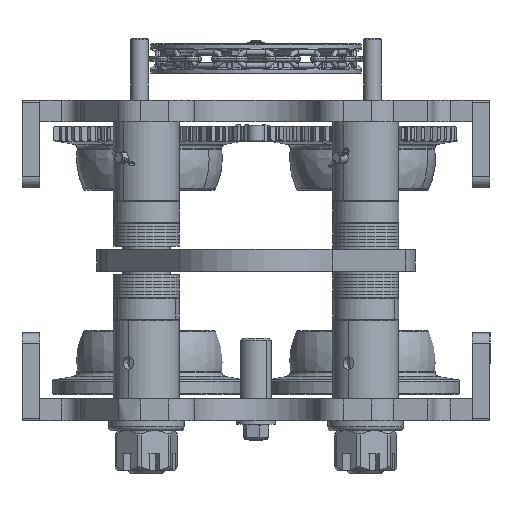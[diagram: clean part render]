
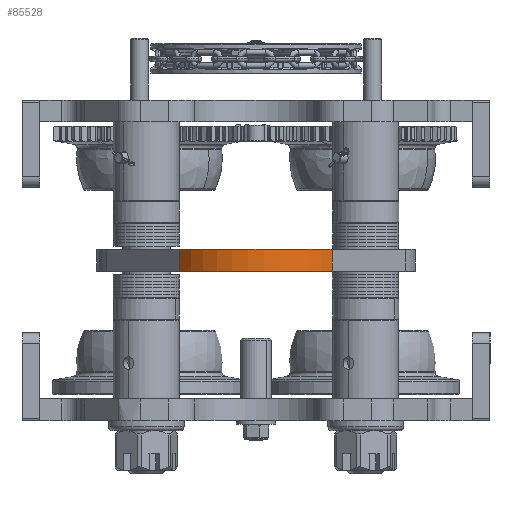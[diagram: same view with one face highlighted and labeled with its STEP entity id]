
A CAD part, front view. The second image highlights one B-rep face of the part: STEP entity #85528.
In plain terms, the highlighted cylindrical face has radius 86.472 mm (diameter 172.943 mm), a partial arc.
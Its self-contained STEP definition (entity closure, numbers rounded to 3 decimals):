
#4873 = DIRECTION ( 'NONE',  ( -1., 0., 0. ) ) ;
#6314 = EDGE_CURVE ( 'NONE', #49684, #47586, #80109, .T. ) ;
#7686 = VECTOR ( 'NONE', #43934, 1000. ) ;
#9032 = CARTESIAN_POINT ( 'NONE',  ( -40.828, -195.603, 146. ) ) ;
#12155 = DIRECTION ( 'NONE',  ( 0., 0., -1. ) ) ;
#14737 = CARTESIAN_POINT ( 'NONE',  ( -40.828, -195.603, 126. ) ) ;
#16377 = CARTESIAN_POINT ( 'NONE',  ( 97.702, -195.603, 146. ) ) ;
#18592 = EDGE_CURVE ( 'NONE', #49684, #22685, #80797, .T. ) ;
#18926 = AXIS2_PLACEMENT_3D ( 'NONE', #74450, #67242, #4873 ) ;
#20218 = DIRECTION ( 'NONE',  ( 1., 0., 0. ) ) ;
#21549 = EDGE_CURVE ( 'NONE', #22685, #65289, #73959, .T. ) ;
#21953 = EDGE_CURVE ( 'NONE', #47586, #65289, #29494, .T. ) ;
#22685 = VERTEX_POINT ( 'NONE', #14737 ) ;
#29494 = LINE ( 'NONE', #16377, #7686 ) ;
#33118 = EDGE_LOOP ( 'NONE', ( #62778, #54235, #86038, #54692 ) ) ;
#35016 = FACE_OUTER_BOUND ( 'NONE', #33118, .T. ) ;
#40102 = CARTESIAN_POINT ( 'NONE',  ( 28.437, -143.838, 126. ) ) ;
#43393 = CARTESIAN_POINT ( 'NONE',  ( 28.437, -143.838, 146. ) ) ;
#43934 = DIRECTION ( 'NONE',  ( 0., 0., -1. ) ) ;
#44740 = DIRECTION ( 'NONE',  ( 0., 0., 1. ) ) ;
#47586 = VERTEX_POINT ( 'NONE', #57819 ) ;
#49684 = VERTEX_POINT ( 'NONE', #9032 ) ;
#52424 = VECTOR ( 'NONE', #12155, 1000. ) ;
#54235 = ORIENTED_EDGE ( 'NONE', *, *, #21953, .F. ) ;
#54692 = ORIENTED_EDGE ( 'NONE', *, *, #18592, .T. ) ;
#56981 = DIRECTION ( 'NONE',  ( 1., 0., 0. ) ) ;
#57819 = CARTESIAN_POINT ( 'NONE',  ( 97.702, -195.603, 146. ) ) ;
#60436 = DIRECTION ( 'NONE',  ( 0., 0., 1. ) ) ;
#61051 = AXIS2_PLACEMENT_3D ( 'NONE', #40102, #60436, #20218 ) ;
#62778 = ORIENTED_EDGE ( 'NONE', *, *, #21549, .T. ) ;
#65289 = VERTEX_POINT ( 'NONE', #67675 ) ;
#67242 = DIRECTION ( 'NONE',  ( 0., 0., -1. ) ) ;
#67675 = CARTESIAN_POINT ( 'NONE',  ( 97.702, -195.603, 126. ) ) ;
#73959 = CIRCLE ( 'NONE', #61051, 86.472 ) ;
#74450 = CARTESIAN_POINT ( 'NONE',  ( 28.437, -143.838, 146. ) ) ;
#76128 = CYLINDRICAL_SURFACE ( 'NONE', #18926, 86.472 ) ;
#80109 = CIRCLE ( 'NONE', #88735, 86.472 ) ;
#80797 = LINE ( 'NONE', #81709, #52424 ) ;
#81709 = CARTESIAN_POINT ( 'NONE',  ( -40.828, -195.603, 146. ) ) ;
#85528 = ADVANCED_FACE ( 'NONE', ( #35016 ), #76128, .T. ) ;
#86038 = ORIENTED_EDGE ( 'NONE', *, *, #6314, .F. ) ;
#88735 = AXIS2_PLACEMENT_3D ( 'NONE', #43393, #44740, #56981 ) ;
